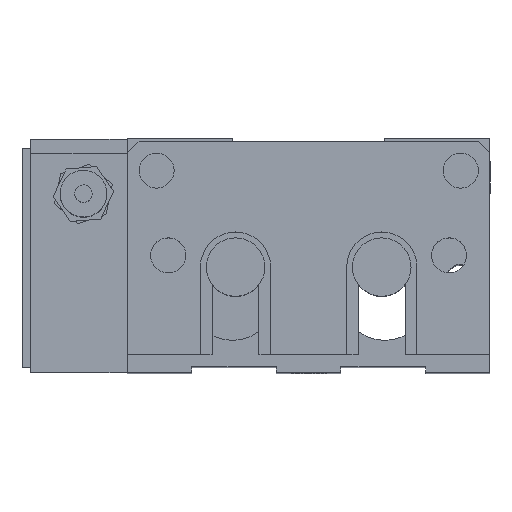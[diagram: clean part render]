
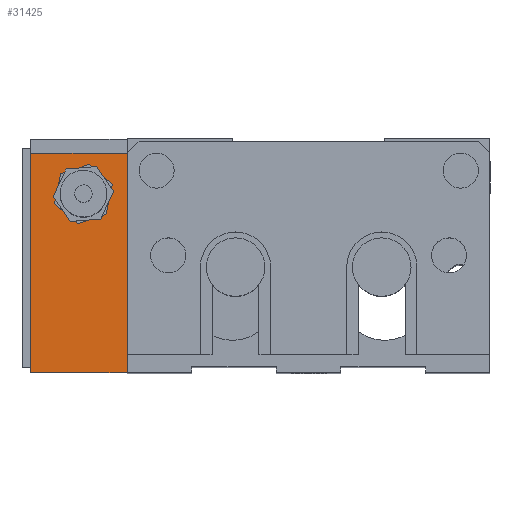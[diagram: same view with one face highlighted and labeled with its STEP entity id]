
A CAD part, top view. The second image highlights one B-rep face of the part: STEP entity #31425.
In plain terms, the highlighted planar face has unit normal (0, 0, 1) as drawn and (0, 0, -1) by its records, which use the part's own axes.
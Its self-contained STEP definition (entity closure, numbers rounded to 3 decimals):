
#2669 = CIRCLE ( 'NONE', #2698, 4. ) ;
#2698 = AXIS2_PLACEMENT_3D ( 'NONE', #2758, #2757, #2756 ) ;
#2709 = CARTESIAN_POINT ( 'NONE',  ( 13., 30.5, 0. ) ) ;
#2712 = CARTESIAN_POINT ( 'NONE',  ( 5., 30.5, 0. ) ) ;
#2756 = DIRECTION ( 'NONE',  ( 1., 0., 0. ) ) ;
#2757 = DIRECTION ( 'NONE',  ( 0., 0., 1. ) ) ;
#2758 = CARTESIAN_POINT ( 'NONE',  ( 9., 30.5, 0. ) ) ;
#2832 = CARTESIAN_POINT ( 'NONE',  ( 0., 0., 0. ) ) ;
#2860 = CARTESIAN_POINT ( 'NONE',  ( 0., 22.5, 0. ) ) ;
#3002 = DIRECTION ( 'NONE',  ( 1., 0., 0. ) ) ;
#3003 = VECTOR ( 'NONE', #3002, 1000. ) ;
#3004 = CARTESIAN_POINT ( 'NONE',  ( 0., 0., 0. ) ) ;
#3005 = CARTESIAN_POINT ( 'NONE',  ( 18., 0., 0. ) ) ;
#3007 = LINE ( 'NONE', #3004, #3003 ) ;
#3008 = DIRECTION ( 'NONE',  ( 0., -1., 0. ) ) ;
#3010 = VECTOR ( 'NONE', #3008, 1000. ) ;
#3011 = CARTESIAN_POINT ( 'NONE',  ( 0., 0., 0. ) ) ;
#3012 = LINE ( 'NONE', #3011, #3010 ) ;
#3097 = CARTESIAN_POINT ( 'NONE',  ( 1.5, 37.5, 0. ) ) ;
#3222 = DIRECTION ( 'NONE',  ( -1., 0., 0. ) ) ;
#3223 = VECTOR ( 'NONE', #3222, 1000. ) ;
#3238 = CARTESIAN_POINT ( 'NONE',  ( 0., 37.5, 0. ) ) ;
#3239 = LINE ( 'NONE', #3238, #3223 ) ;
#3267 = CARTESIAN_POINT ( 'NONE',  ( 18., 37.5, 0. ) ) ;
#3274 = DIRECTION ( 'NONE',  ( 0., 1., 0. ) ) ;
#3275 = VECTOR ( 'NONE', #3274, 1000. ) ;
#3276 = CARTESIAN_POINT ( 'NONE',  ( 18., 0., 0. ) ) ;
#3277 = LINE ( 'NONE', #3276, #3275 ) ;
#3296 = CARTESIAN_POINT ( 'NONE',  ( 1.5, 22.5, 0. ) ) ;
#3299 = LINE ( 'NONE', #3362, #3361 ) ;
#3324 = CARTESIAN_POINT ( 'NONE',  ( 0., 37.5, 0. ) ) ;
#3325 = PLANE ( 'NONE',  #3397 ) ;
#3330 = DIRECTION ( 'NONE',  ( 0., 0., -1. ) ) ;
#3331 = VECTOR ( 'NONE', #3371, 1000. ) ;
#3339 = FACE_OUTER_BOUND ( 'NONE', #31389, .T. ) ;
#3344 = CARTESIAN_POINT ( 'NONE',  ( 9., 30.5, 0. ) ) ;
#3345 = DIRECTION ( 'NONE',  ( 0., 0., 1. ) ) ;
#3360 = DIRECTION ( 'NONE',  ( 0., 1., 0. ) ) ;
#3361 = VECTOR ( 'NONE', #3360, 1000. ) ;
#3362 = CARTESIAN_POINT ( 'NONE',  ( 1.5, 22.5, 0. ) ) ;
#3371 = DIRECTION ( 'NONE',  ( -1., 0., 0. ) ) ;
#3379 = DIRECTION ( 'NONE',  ( 1., 0., 0. ) ) ;
#3389 = CIRCLE ( 'NONE', #3393, 4. ) ;
#3391 = DIRECTION ( 'NONE',  ( -1., 0., 0. ) ) ;
#3393 = AXIS2_PLACEMENT_3D ( 'NONE', #3344, #3345, #3379 ) ;
#3394 = CARTESIAN_POINT ( 'NONE',  ( 0., 22.5, 0. ) ) ;
#3395 = LINE ( 'NONE', #3394, #3331 ) ;
#3396 = FACE_BOUND ( 'NONE', #31394, .T. ) ;
#3397 = AXIS2_PLACEMENT_3D ( 'NONE', #3324, #3330, #3391 ) ;
#31157 = VERTEX_POINT ( 'NONE', #2709 ) ;
#31161 = VERTEX_POINT ( 'NONE', #2712 ) ;
#31166 = EDGE_CURVE ( 'NONE', #31161, #31157, #2669, .T. ) ;
#31188 = VERTEX_POINT ( 'NONE', #2832 ) ;
#31207 = VERTEX_POINT ( 'NONE', #2860 ) ;
#31261 = EDGE_CURVE ( 'NONE', #31207, #31188, #3012, .T. ) ;
#31270 = EDGE_CURVE ( 'NONE', #31188, #31272, #3007, .T. ) ;
#31272 = VERTEX_POINT ( 'NONE', #3005 ) ;
#31300 = VERTEX_POINT ( 'NONE', #3097 ) ;
#31356 = EDGE_CURVE ( 'NONE', #31378, #31300, #3239, .T. ) ;
#31368 = EDGE_CURVE ( 'NONE', #31272, #31378, #3277, .T. ) ;
#31378 = VERTEX_POINT ( 'NONE', #3267 ) ;
#31389 = EDGE_LOOP ( 'NONE', ( #31398, #31432, #31431, #31420, #31430, #31423 ) ) ;
#31394 = EDGE_LOOP ( 'NONE', ( #31424, #31421 ) ) ;
#31398 = ORIENTED_EDGE ( 'NONE', *, *, #31406, .T. ) ;
#31399 = VERTEX_POINT ( 'NONE', #3296 ) ;
#31406 = EDGE_CURVE ( 'NONE', #31399, #31300, #3299, .T. ) ;
#31420 = ORIENTED_EDGE ( 'NONE', *, *, #31270, .F. ) ;
#31421 = ORIENTED_EDGE ( 'NONE', *, *, #31166, .T. ) ;
#31423 = ORIENTED_EDGE ( 'NONE', *, *, #31437, .F. ) ;
#31424 = ORIENTED_EDGE ( 'NONE', *, *, #31435, .T. ) ;
#31425 = ADVANCED_FACE ( 'NONE', ( #3339, #3396 ), #3325, .T. ) ;
#31430 = ORIENTED_EDGE ( 'NONE', *, *, #31261, .F. ) ;
#31431 = ORIENTED_EDGE ( 'NONE', *, *, #31368, .F. ) ;
#31432 = ORIENTED_EDGE ( 'NONE', *, *, #31356, .F. ) ;
#31435 = EDGE_CURVE ( 'NONE', #31157, #31161, #3389, .T. ) ;
#31437 = EDGE_CURVE ( 'NONE', #31399, #31207, #3395, .T. ) ;
